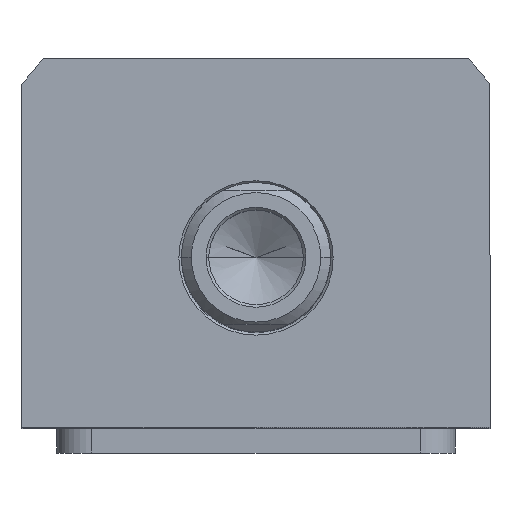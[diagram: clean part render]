
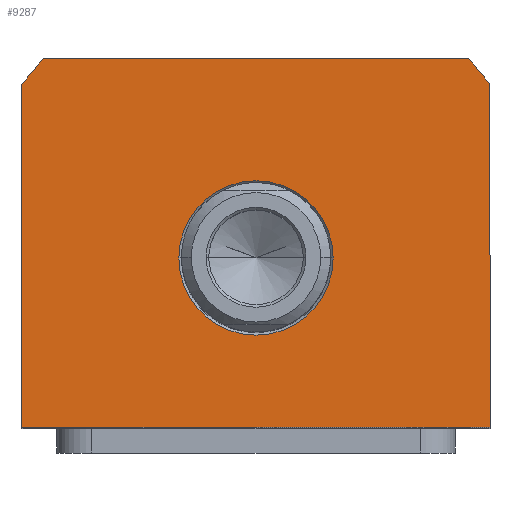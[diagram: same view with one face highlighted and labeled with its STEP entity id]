
A CAD part, top view. The second image highlights one B-rep face of the part: STEP entity #9287.
In plain terms, the highlighted planar face has unit normal (0, 0, 1).
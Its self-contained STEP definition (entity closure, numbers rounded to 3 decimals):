
#14 = ORIENTED_EDGE ( 'NONE', *, *, #5233, .T. ) ;
#657 = ORIENTED_EDGE ( 'NONE', *, *, #7149, .T. ) ;
#772 = CARTESIAN_POINT ( 'NONE',  ( 0., 0., 72.5 ) ) ;
#814 = CARTESIAN_POINT ( 'NONE',  ( 47., 34.832, 72.5 ) ) ;
#820 = DIRECTION ( 'NONE',  ( 0., 0., 1. ) ) ;
#972 = EDGE_CURVE ( 'NONE', #8044, #5612, #8934, .T. ) ;
#1122 = EDGE_CURVE ( 'NONE', #5612, #1691, #6353, .T. ) ;
#1131 = CARTESIAN_POINT ( 'NONE',  ( 0., 0., 72.5 ) ) ;
#1199 = ORIENTED_EDGE ( 'NONE', *, *, #8298, .T. ) ;
#1204 = EDGE_CURVE ( 'NONE', #3212, #8044, #8504, .T. ) ;
#1224 = CARTESIAN_POINT ( 'NONE',  ( 0., 0., 72.5 ) ) ;
#1291 = CARTESIAN_POINT ( 'NONE',  ( -15.5, 0., 72.5 ) ) ;
#1319 = EDGE_CURVE ( 'NONE', #5411, #4233, #10805, .T. ) ;
#1344 = VECTOR ( 'NONE', #1627, 1000. ) ;
#1465 = DIRECTION ( 'NONE',  ( 0., -1., 0. ) ) ;
#1534 = ORIENTED_EDGE ( 'NONE', *, *, #972, .T. ) ;
#1627 = DIRECTION ( 'NONE',  ( 1., 0., 0. ) ) ;
#1657 = CIRCLE ( 'NONE', #9983, 15.5 ) ;
#1691 = VERTEX_POINT ( 'NONE', #11519 ) ;
#1891 = CARTESIAN_POINT ( 'NONE',  ( -47., -34., 72.5 ) ) ;
#2293 = CARTESIAN_POINT ( 'NONE',  ( 0., 0., 72.5 ) ) ;
#2503 = EDGE_LOOP ( 'NONE', ( #7399, #7512, #1199, #14, #5689, #1534 ) ) ;
#2746 = EDGE_LOOP ( 'NONE', ( #6919, #657 ) ) ;
#2983 = DIRECTION ( 'NONE',  ( 0., 0., 1. ) ) ;
#3212 = VERTEX_POINT ( 'NONE', #11005 ) ;
#3310 = DIRECTION ( 'NONE',  ( 1., 0., 0. ) ) ;
#3863 = AXIS2_PLACEMENT_3D ( 'NONE', #1131, #2983, #5759 ) ;
#3956 = CARTESIAN_POINT ( 'NONE',  ( -42.688, 40., 72.5 ) ) ;
#4052 = LINE ( 'NONE', #3956, #5326 ) ;
#4194 = DIRECTION ( 'NONE',  ( 0., 0., 1. ) ) ;
#4233 = VERTEX_POINT ( 'NONE', #1291 ) ;
#4349 = CARTESIAN_POINT ( 'NONE',  ( 47., 34.832, 72.5 ) ) ;
#4459 = DIRECTION ( 'NONE',  ( 0., 0., -1. ) ) ;
#4706 = PLANE ( 'NONE',  #3863 ) ;
#4758 = AXIS2_PLACEMENT_3D ( 'NONE', #1224, #4194, #3310 ) ;
#4852 = DIRECTION ( 'NONE',  ( -1., 0., 0. ) ) ;
#5233 = EDGE_CURVE ( 'NONE', #10838, #3212, #4052, .T. ) ;
#5294 = DIRECTION ( 'NONE',  ( 1., 0., 0. ) ) ;
#5326 = VECTOR ( 'NONE', #4852, 1000. ) ;
#5381 = CARTESIAN_POINT ( 'NONE',  ( 47., -34., 72.5 ) ) ;
#5411 = VERTEX_POINT ( 'NONE', #6930 ) ;
#5547 = EDGE_CURVE ( 'NONE', #1691, #7661, #6171, .T. ) ;
#5612 = VERTEX_POINT ( 'NONE', #1891 ) ;
#5689 = ORIENTED_EDGE ( 'NONE', *, *, #1204, .T. ) ;
#5759 = DIRECTION ( 'NONE',  ( 1., 0., 0. ) ) ;
#6107 = CARTESIAN_POINT ( 'NONE',  ( 42.688, 40., 72.5 ) ) ;
#6171 = LINE ( 'NONE', #4349, #8612 ) ;
#6353 = LINE ( 'NONE', #5381, #1344 ) ;
#6919 = ORIENTED_EDGE ( 'NONE', *, *, #1319, .T. ) ;
#6930 = CARTESIAN_POINT ( 'NONE',  ( 15.5, 0., 72.5 ) ) ;
#6986 = AXIS2_PLACEMENT_3D ( 'NONE', #8163, #820, #5294 ) ;
#7149 = EDGE_CURVE ( 'NONE', #4233, #5411, #1657, .T. ) ;
#7399 = ORIENTED_EDGE ( 'NONE', *, *, #1122, .T. ) ;
#7512 = ORIENTED_EDGE ( 'NONE', *, *, #5547, .T. ) ;
#7661 = VERTEX_POINT ( 'NONE', #814 ) ;
#7828 = FACE_BOUND ( 'NONE', #2746, .T. ) ;
#8044 = VERTEX_POINT ( 'NONE', #10341 ) ;
#8163 = CARTESIAN_POINT ( 'NONE',  ( 0., 0., 72.5 ) ) ;
#8205 = AXIS2_PLACEMENT_3D ( 'NONE', #772, #4459, #10872 ) ;
#8298 = EDGE_CURVE ( 'NONE', #7661, #10838, #9214, .T. ) ;
#8504 = CIRCLE ( 'NONE', #6986, 58.5 ) ;
#8536 = FACE_OUTER_BOUND ( 'NONE', #2503, .T. ) ;
#8612 = VECTOR ( 'NONE', #10782, 1000. ) ;
#8701 = CARTESIAN_POINT ( 'NONE',  ( -47., -34., 72.5 ) ) ;
#8934 = LINE ( 'NONE', #8701, #9512 ) ;
#9214 = CIRCLE ( 'NONE', #4758, 58.5 ) ;
#9287 = ADVANCED_FACE ( 'NONE', ( #7828, #8536 ), #4706, .T. ) ;
#9512 = VECTOR ( 'NONE', #1465, 1000. ) ;
#9586 = DIRECTION ( 'NONE',  ( 1., 0., 0. ) ) ;
#9983 = AXIS2_PLACEMENT_3D ( 'NONE', #2293, #11333, #9586 ) ;
#10341 = CARTESIAN_POINT ( 'NONE',  ( -47., 34.832, 72.5 ) ) ;
#10782 = DIRECTION ( 'NONE',  ( 0., 1., 0. ) ) ;
#10805 = CIRCLE ( 'NONE', #8205, 15.5 ) ;
#10838 = VERTEX_POINT ( 'NONE', #6107 ) ;
#10872 = DIRECTION ( 'NONE',  ( 1., 0., 0. ) ) ;
#11005 = CARTESIAN_POINT ( 'NONE',  ( -42.688, 40., 72.5 ) ) ;
#11333 = DIRECTION ( 'NONE',  ( 0., 0., -1. ) ) ;
#11519 = CARTESIAN_POINT ( 'NONE',  ( 47., -34., 72.5 ) ) ;
